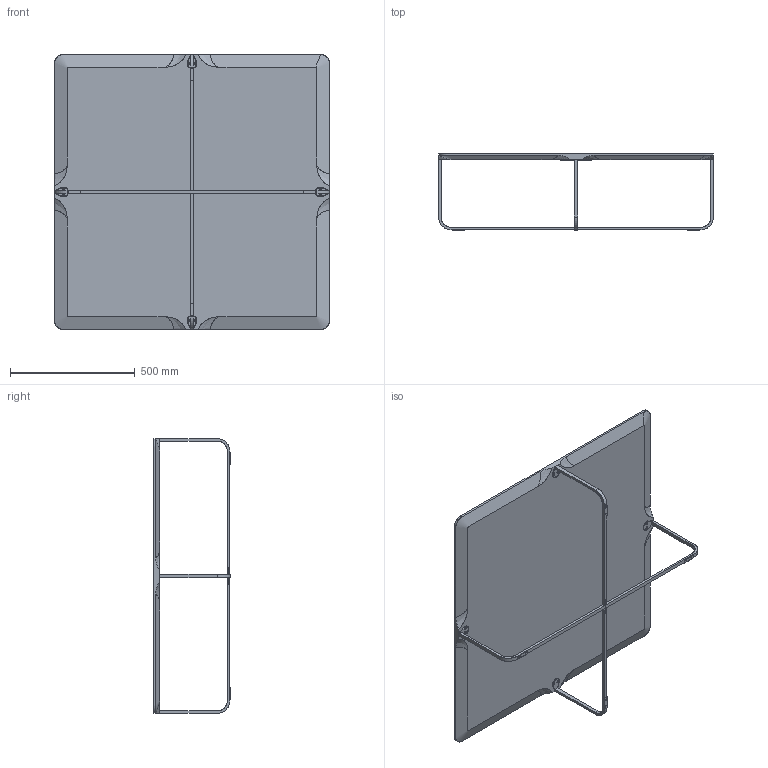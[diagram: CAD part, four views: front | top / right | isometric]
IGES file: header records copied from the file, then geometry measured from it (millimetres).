
Start section: SolidWorks IGES file using analytic representation for surfaces
Global section: file name: C:\Users\Kentie3D\Projecten\2013\1319 Montis verkoop info\Flint\3D\Flint tafel 1100-300 vierkant.IGS; native system: SolidWorks 2013; preprocessor: SolidWorks 2013; author: Kentie3D; date: 131212.154654; units: millimetre
Bounding box: 1100 x 308 x 1100 mm (x, y, z)
Surface area: 2656047.4 mm2 (no closed solid volume)
Topology: 0 solids, 0 shells, 384 faces, 5480 edges, 5452 vertices
Faces by surface type: revolution 219, bspline 165
